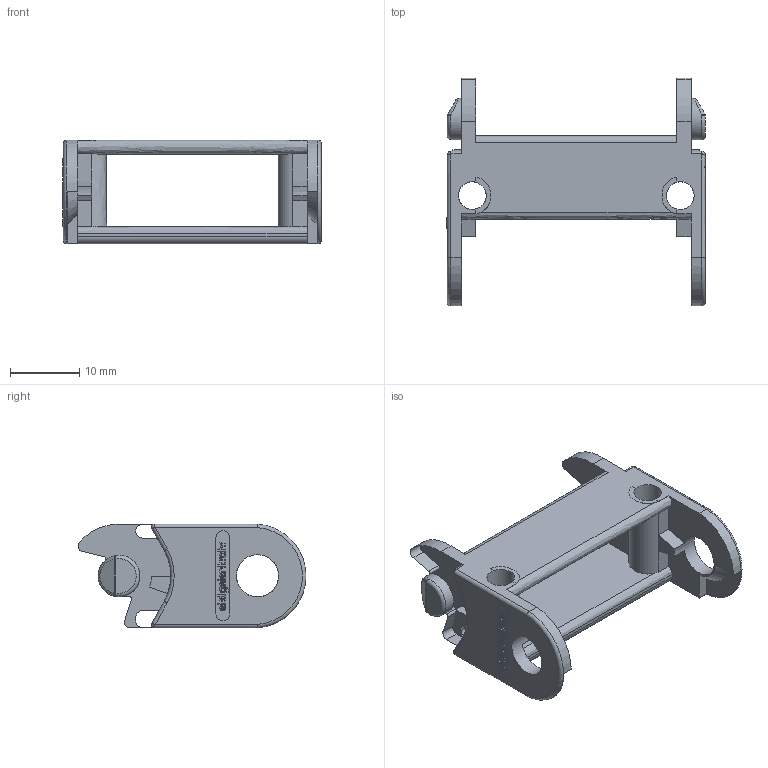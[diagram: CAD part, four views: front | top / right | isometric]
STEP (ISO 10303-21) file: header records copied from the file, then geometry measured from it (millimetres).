
FILE_DESCRIPTION((''),'2;1');
FILE_NAME('C:\Uebbing\PARAMETERKETTEN\KOLIBRI\Kol_15_037_3\Kol_15_037_3.stp','2011-11-02T11:04:30',('Uebbing'),(''),'Autodesk Inventor 10','Autodesk Inventor 10','');
FILE_SCHEMA(('AUTOMOTIVE_DESIGN { 1 0 10303 214 1 1 1 1 }'));
Length unit declared in the file: millimetre
Products named in the file (1): Kol_15_037_3
Bounding box: 37.36 x 32.9 x 14.97 mm (x, y, z)
Volume: 3412.3 mm3; surface area: 4046.5 mm2
Topology: 1 solids, 1 shells, 413 faces, 1096 edges, 711 vertices
Faces by surface type: plane 243, cylinder 91, bspline 71, sphere 4, torus 3, cone 1
Full cylindrical faces by diameter (mm): 0.1 x2, 0.491 x1, 0.862 x1, 4 x1, 6 x1, 6.1 x1
Entity records: 13813 total; most frequent: CARTESIAN_POINT 3609, ORIENTED_EDGE 2158, DIRECTION 2021, EDGE_CURVE 1079, VECTOR 803, LINE 803, VERTEX_POINT 706, AXIS2_PLACEMENT_3D 609
